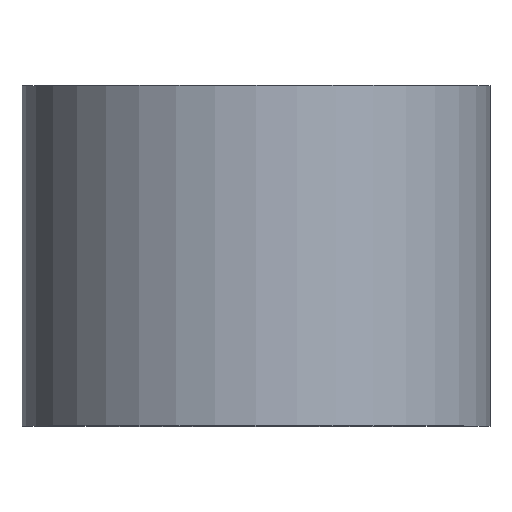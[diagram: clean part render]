
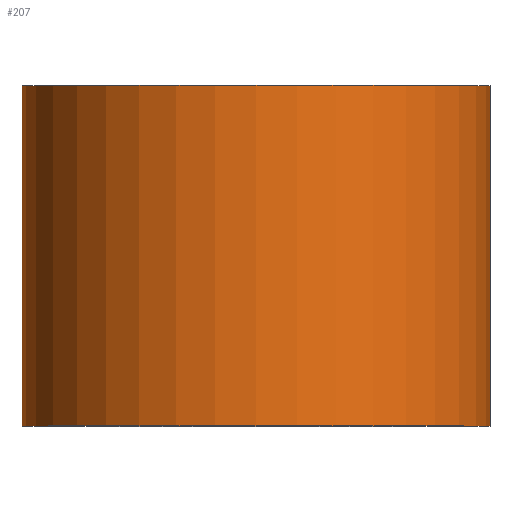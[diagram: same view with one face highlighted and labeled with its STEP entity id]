
A CAD part, top view. The second image highlights one B-rep face of the part: STEP entity #207.
In plain terms, the highlighted cylindrical face has radius 11 mm (diameter 22 mm), a partial arc.
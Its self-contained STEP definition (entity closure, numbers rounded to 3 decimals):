
#2 = CYLINDRICAL_SURFACE ( 'NONE', #231, 11. ) ;
#23 = DIRECTION ( 'NONE',  ( 0., 1., 0. ) ) ;
#34 = VERTEX_POINT ( 'NONE', #181 ) ;
#36 = CARTESIAN_POINT ( 'NONE',  ( 0., 0., 0. ) ) ;
#42 = DIRECTION ( 'NONE',  ( 0., 1., 0. ) ) ;
#48 = DIRECTION ( 'NONE',  ( 0., 1., 0. ) ) ;
#57 = AXIS2_PLACEMENT_3D ( 'NONE', #232, #167, #169 ) ;
#71 = DIRECTION ( 'NONE',  ( -1., 0., 0. ) ) ;
#84 = ORIENTED_EDGE ( 'NONE', *, *, #210, .F. ) ;
#86 = VERTEX_POINT ( 'NONE', #182 ) ;
#90 = ORIENTED_EDGE ( 'NONE', *, *, #298, .T. ) ;
#91 = CARTESIAN_POINT ( 'NONE',  ( -11., 16., 0. ) ) ;
#94 = CARTESIAN_POINT ( 'NONE',  ( 0., 16., 0. ) ) ;
#100 = LINE ( 'NONE', #147, #258 ) ;
#107 = LINE ( 'NONE', #278, #280 ) ;
#117 = DIRECTION ( 'NONE',  ( -1., 0., 0. ) ) ;
#127 = FACE_OUTER_BOUND ( 'NONE', #288, .T. ) ;
#147 = CARTESIAN_POINT ( 'NONE',  ( -11., 0., 0. ) ) ;
#167 = DIRECTION ( 'NONE',  ( 0., 1., 0. ) ) ;
#169 = DIRECTION ( 'NONE',  ( -1., 0., 0. ) ) ;
#181 = CARTESIAN_POINT ( 'NONE',  ( 11., 0., 0. ) ) ;
#182 = CARTESIAN_POINT ( 'NONE',  ( -11., 0., 0. ) ) ;
#191 = VERTEX_POINT ( 'NONE', #91 ) ;
#197 = CIRCLE ( 'NONE', #57, 11. ) ;
#201 = AXIS2_PLACEMENT_3D ( 'NONE', #94, #23, #71 ) ;
#207 = ADVANCED_FACE ( 'NONE', ( #127 ), #2, .T. ) ;
#210 = EDGE_CURVE ( 'NONE', #191, #274, #241, .T. ) ;
#225 = DIRECTION ( 'NONE',  ( 0., 1., 0. ) ) ;
#230 = CARTESIAN_POINT ( 'NONE',  ( 11., 16., 0. ) ) ;
#231 = AXIS2_PLACEMENT_3D ( 'NONE', #36, #225, #117 ) ;
#232 = CARTESIAN_POINT ( 'NONE',  ( 0., 0., 0. ) ) ;
#233 = ORIENTED_EDGE ( 'NONE', *, *, #265, .F. ) ;
#241 = CIRCLE ( 'NONE', #201, 11. ) ;
#244 = EDGE_CURVE ( 'NONE', #86, #34, #197, .T. ) ;
#258 = VECTOR ( 'NONE', #42, 1000. ) ;
#265 = EDGE_CURVE ( 'NONE', #86, #191, #100, .T. ) ;
#274 = VERTEX_POINT ( 'NONE', #230 ) ;
#278 = CARTESIAN_POINT ( 'NONE',  ( 11., 0., 0. ) ) ;
#280 = VECTOR ( 'NONE', #48, 1000. ) ;
#285 = ORIENTED_EDGE ( 'NONE', *, *, #244, .T. ) ;
#288 = EDGE_LOOP ( 'NONE', ( #285, #90, #84, #233 ) ) ;
#298 = EDGE_CURVE ( 'NONE', #34, #274, #107, .T. ) ;
